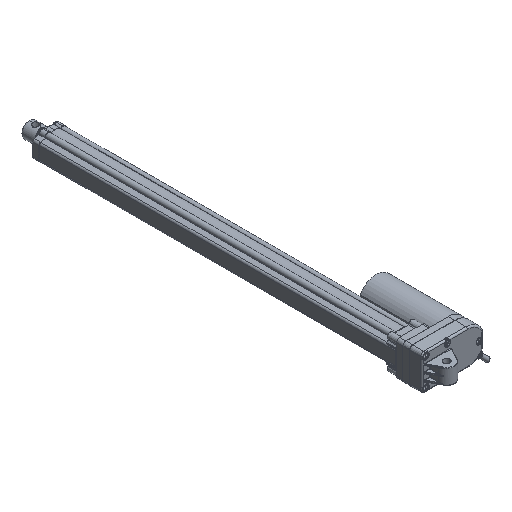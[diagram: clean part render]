
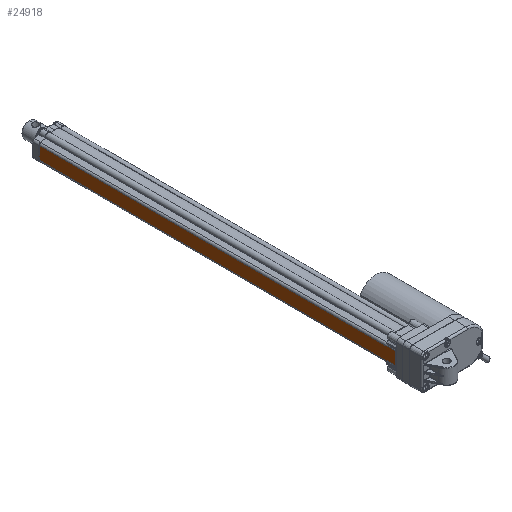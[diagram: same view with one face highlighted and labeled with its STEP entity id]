
A CAD part, isometric view. The second image highlights one B-rep face of the part: STEP entity #24918.
In plain terms, the highlighted planar face has unit normal (-1, 0, 0).
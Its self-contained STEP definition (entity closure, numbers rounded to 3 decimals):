
#8853 = AXIS2_PLACEMENT_3D ( 'NONE', #10539, #10540, #10541 ) ;
#10531 = PLANE ( 'NONE',  #8853 ) ;
#10539 = CARTESIAN_POINT ( 'NONE',  ( -39.091, 419.325, -0.002 ) ) ;
#10540 = DIRECTION ( 'NONE',  ( 1., 0., 0. ) ) ;
#10541 = DIRECTION ( 'NONE',  ( 0., 1., 0. ) ) ;
#10887 = FACE_OUTER_BOUND ( 'NONE', #28274, .T. ) ;
#21977 = EDGE_CURVE ( 'NONE', #28759, #28874, #38836, .T. ) ;
#22001 = EDGE_CURVE ( 'NONE', #28825, #28759, #38854, .T. ) ;
#22002 = EDGE_CURVE ( 'NONE', #28936, #28825, #38863, .T. ) ;
#22003 = EDGE_CURVE ( 'NONE', #28874, #28936, #38864, .T. ) ;
#23505 = CARTESIAN_POINT ( 'NONE',  ( -39.091, 510.025, -8.097 ) ) ;
#23628 = CARTESIAN_POINT ( 'NONE',  ( -39.091, 58.025, -8.097 ) ) ;
#23719 = CARTESIAN_POINT ( 'NONE',  ( -39.091, 510.025, 8.094 ) ) ;
#23834 = CARTESIAN_POINT ( 'NONE',  ( -39.091, 58.025, 8.094 ) ) ;
#24918 = ADVANCED_FACE ( 'NONE', ( #10887 ), #10531, .F. ) ;
#25739 = ORIENTED_EDGE ( 'NONE', *, *, #22001, .F. ) ;
#25740 = ORIENTED_EDGE ( 'NONE', *, *, #22002, .F. ) ;
#25741 = ORIENTED_EDGE ( 'NONE', *, *, #22003, .F. ) ;
#25742 = ORIENTED_EDGE ( 'NONE', *, *, #21977, .F. ) ;
#28274 = EDGE_LOOP ( 'NONE', ( #25739, #25740, #25741, #25742 ) ) ;
#28759 = VERTEX_POINT ( 'NONE', #23505 ) ;
#28825 = VERTEX_POINT ( 'NONE', #23628 ) ;
#28874 = VERTEX_POINT ( 'NONE', #23719 ) ;
#28936 = VERTEX_POINT ( 'NONE', #23834 ) ;
#38836 = LINE ( 'NONE', #42919, #38838 ) ;
#38838 = VECTOR ( 'NONE', #42928, 1000. ) ;
#38854 = LINE ( 'NONE', #43186, #38860 ) ;
#38860 = VECTOR ( 'NONE', #43188, 1000. ) ;
#38863 = LINE ( 'NONE', #43189, #38865 ) ;
#38864 = LINE ( 'NONE', #43191, #38867 ) ;
#38865 = VECTOR ( 'NONE', #43190, 1000. ) ;
#38867 = VECTOR ( 'NONE', #43192, 1000. ) ;
#42919 = CARTESIAN_POINT ( 'NONE',  ( -39.091, 510.025, -0.002 ) ) ;
#42928 = DIRECTION ( 'NONE',  ( 0., 0., 1. ) ) ;
#43186 = CARTESIAN_POINT ( 'NONE',  ( -39.091, 419.325, -8.097 ) ) ;
#43188 = DIRECTION ( 'NONE',  ( 0., 1., 0. ) ) ;
#43189 = CARTESIAN_POINT ( 'NONE',  ( -39.091, 58.025, -10.602 ) ) ;
#43190 = DIRECTION ( 'NONE',  ( 0., 0., -1. ) ) ;
#43191 = CARTESIAN_POINT ( 'NONE',  ( -39.091, 419.325, 8.094 ) ) ;
#43192 = DIRECTION ( 'NONE',  ( 0., -1., 0. ) ) ;
